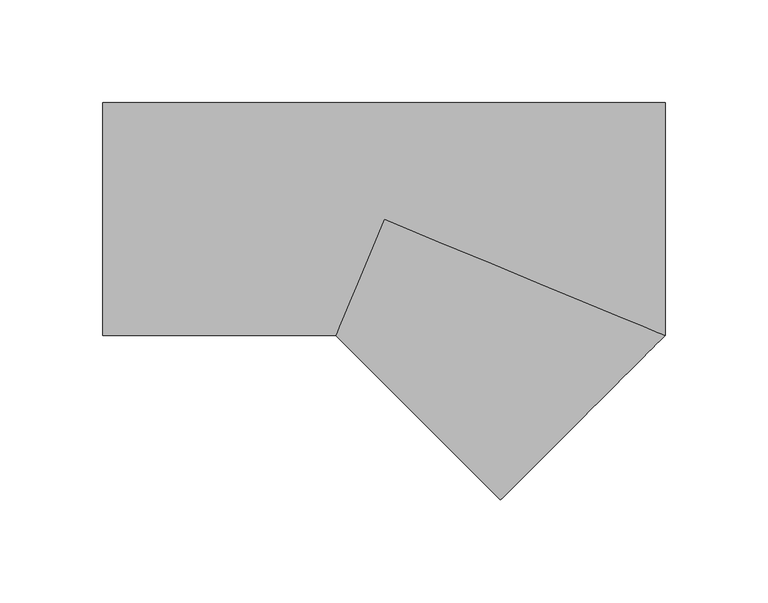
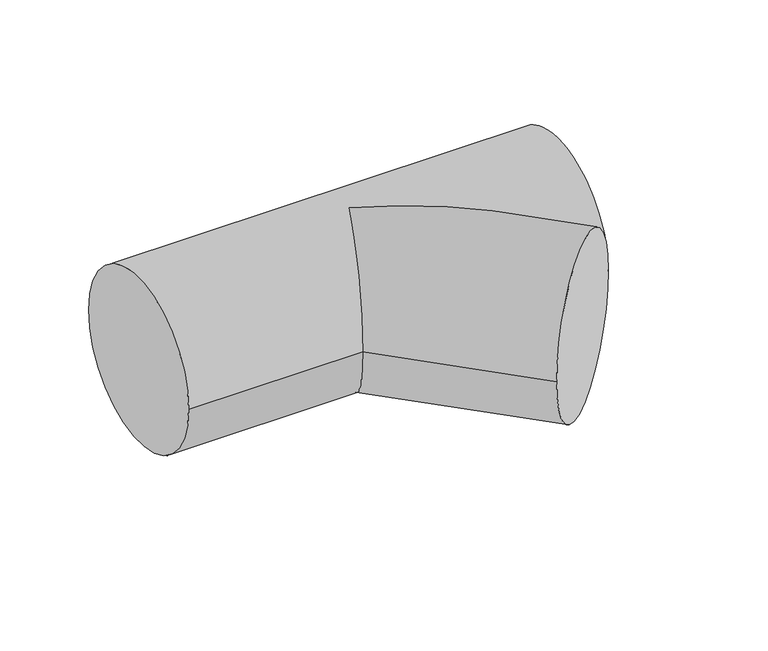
"""IFC4 building model written with IfcOpenShell, lengths in millimetres: pipe fitting geometry, M_Te - Genérica : Estándar."""

from ifc_helpers import new_model, si_unit, frame, origin, place, context, project, spatial, circle_curve, ellipse_curve, source, transform, mapped, element, save
from ifc_brep_helpers import plane_surface, cylinder_surface, advanced_brep


def pipe_fitting_37054e91(model_context):
    return source(origin(), model_context, "Body", "AdvancedBrep", [
        advanced_brep(
        [(-136.6176677, -56.5875, 0.0), (-136.6176677, 56.5875, 0.0), (136.6176677, -56.5875, 0.0), (136.6176677, 56.5875, 0.0), (-23.4387339, -56.5875, 0.0), (0.0, 0.0, 56.5875), (0.0, 0.0, -56.5875), (56.5922485, -136.6157007, 0.0)],
        [
            (0, 1, circle_curve(frame((-136.6176677, 0.0, 0.0), z_axis=(-1.0, 0.0, 0.0), x_axis=(0.0, 1.0, 0.0)), 56.5875)),
            (1, 0, circle_curve(frame((-136.6176677, 0.0, 0.0), z_axis=(-1.0, 0.0, 0.0), x_axis=(0.0, 1.0, 0.0)), 56.5875)),
            (2, 3, circle_curve(frame((136.6176677, 0.0, 0.0), z_axis=(1.0, 0.0, 0.0), x_axis=(0.0, 1.0, 0.0)), 56.5875)),
            (3, 2, circle_curve(frame((136.6176677, 0.0, 0.0), z_axis=(1.0, 0.0, 0.0), x_axis=(0.0, 1.0, 0.0)), 56.5875)),
            (0, 4),
            (4, 5, ellipse_curve(frame((0.0, 0.0, 0.0), z_axis=(-0.9238828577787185, 0.382675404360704, 0.0), x_axis=(-0.3826754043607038, -0.9238828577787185, 0.0)), 61.2496482, 56.5875)),
            (5, 2, ellipse_curve(frame((0.0, 0.0, 0.0), z_axis=(0.382675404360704, 0.9238828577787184, 0.0), x_axis=(-0.9238828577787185, 0.382675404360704, 0.0)), 147.8733657, 56.5875)),
            (3, 1),
            (2, 6, ellipse_curve(frame((0.0, 0.0, 0.0), z_axis=(0.382675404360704, 0.9238828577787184, 0.0), x_axis=(-0.9238828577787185, 0.382675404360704, 0.0)), 147.8733657, 56.5875)),
            (6, 4, ellipse_curve(frame((0.0, 0.0, 0.0), z_axis=(-0.9238828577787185, 0.382675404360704, 0.0), x_axis=(-0.3826754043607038, -0.9238828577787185, 0.0)), 61.2496482, 56.5875)),
            (7, 2, circle_curve(frame((96.6049581, -96.6016004, 0.0), z_axis=(0.7071190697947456, -0.7070944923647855, 0.0), x_axis=(0.7070944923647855, 0.7071190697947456, 0.0)), 56.5875)),
            (2, 7, circle_curve(frame((96.6049581, -96.6016004, 0.0), z_axis=(0.7071190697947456, -0.7070944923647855, 0.0), x_axis=(0.7070944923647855, 0.7071190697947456, 0.0)), 56.5875)),
            (4, 7),
        ],
        [
            plane_surface(frame((-136.6176677, 0.0, 0.0), z_axis=(-1.0, 0.0, 0.0), x_axis=(0.0, 0.0, 1.0))),
            plane_surface(frame((136.6176677, 0.0, 0.0), z_axis=(1.0, 0.0, 0.0), x_axis=(0.0, 0.0, 1.0))),
            cylinder_surface(frame((-136.6176677, 0.0, 0.0), z_axis=(-1.0, 0.0, 0.0), x_axis=(0.0, 1.0, 0.0)), 56.5875),
            plane_surface(frame((96.6049581, -96.6016004, 0.0), z_axis=(0.7071190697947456, -0.7070944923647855, 0.0), x_axis=(0.0, 0.0, 1.0))),
            cylinder_surface(frame((0.0, 0.0, 0.0), z_axis=(-0.7071190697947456, 0.7070944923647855, 0.0), x_axis=(0.7070944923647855, 0.7071190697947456, 0.0)), 56.5875),
        ],
        [
            (0, [[1, 2]]),
            (1, [[3, 4]]),
            (2, [[-1, 5, 6, 7, -4, 8]]),
            (2, [[-2, -8, -3, 9, 10, -5]]),
            (3, [[11, 12]]),
            (4, [[-12, -7, -6, 13]]),
            (4, [[-11, -13, -10, -9]]),
        ],
    ),
    ])


if __name__ == "__main__":
    model = new_model("IFC4")
    model_context = context("Model", 3, world=origin())
    ifc_project = project(units=[si_unit("LENGTHUNIT", "METRE", prefix="MILLI")], contexts=[model_context])
    site = spatial("IfcSite", under=ifc_project)
    building = spatial("IfcBuilding", under=site)
    placement = place(None, origin())
    pipe_fitting_shape = pipe_fitting_37054e91(model_context)
    element("IfcPipeFitting", 1, ObjectType="M_Te - Genérica : Estándar", at=placement, inside=building, context=model_context, shape_type="MappedRepresentation", body=[
        mapped(pipe_fitting_shape, transform((0.0, 0.0, 0.0), x_axis=(1.0, 0.0, 0.0), y_axis=(0.0, 1.0, 0.0), z_axis=(0.0, 0.0, 1.0))),
    ])
    save(model, "model.ifc")
